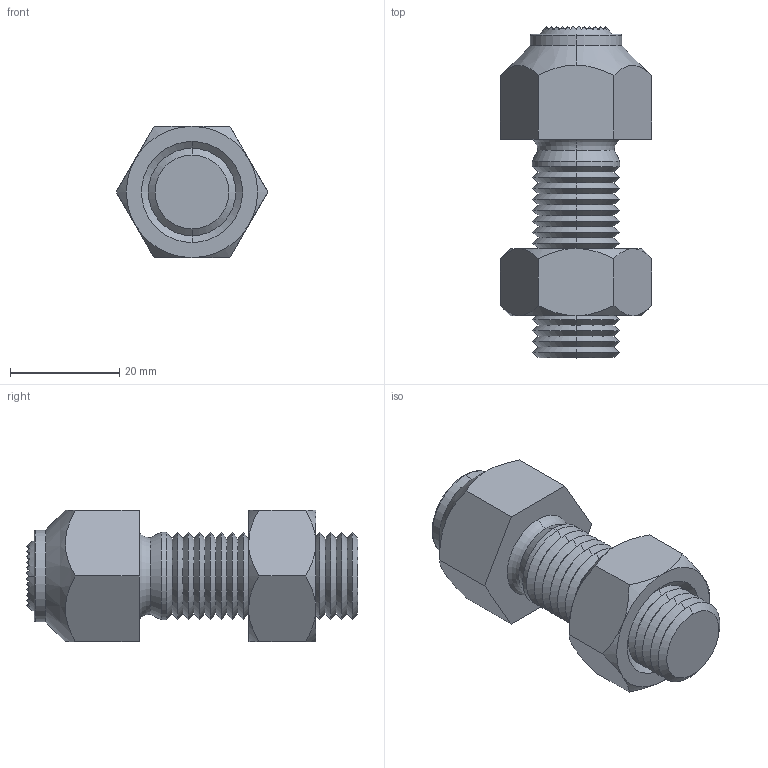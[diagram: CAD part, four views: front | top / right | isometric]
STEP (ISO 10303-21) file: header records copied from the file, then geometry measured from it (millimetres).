
FILE_DESCRIPTION (( 'STEP AP203' ), '1' );
FILE_NAME ('Default.step', '2017-03-27T09:19:04', ( 'User' ), ( '' ), 'SwSTEP 2.0', 'SolidWorks 2009', '' );
FILE_SCHEMA (( 'CONFIG_CONTROL_DESIGN' ));
Length unit declared in the file: millimetre
Products named in the file (4): Part3; Part2; Part1; Default
Assembly tree (3 placements, depth 2):
  Default
    Part3
    Part2
    Part1
Bounding box: 27.71 x 60.7 x 24 mm (x, y, z)
Volume: 18837 mm3; surface area: 8519.6 mm2
Topology: 3 solids, 3 shells, 609 faces, 1082 edges, 477 vertices
Faces by surface type: plane 499, cone 90, cylinder 8, torus 8, sphere 4
Entity records: 14196 total; most frequent: DIRECTION 2530, CARTESIAN_POINT 2402, ORIENTED_EDGE 2144, EDGE_CURVE 1072, AXIS2_PLACEMENT_3D 875, VECTOR 780, LINE 780, EDGE_LOOP 613
